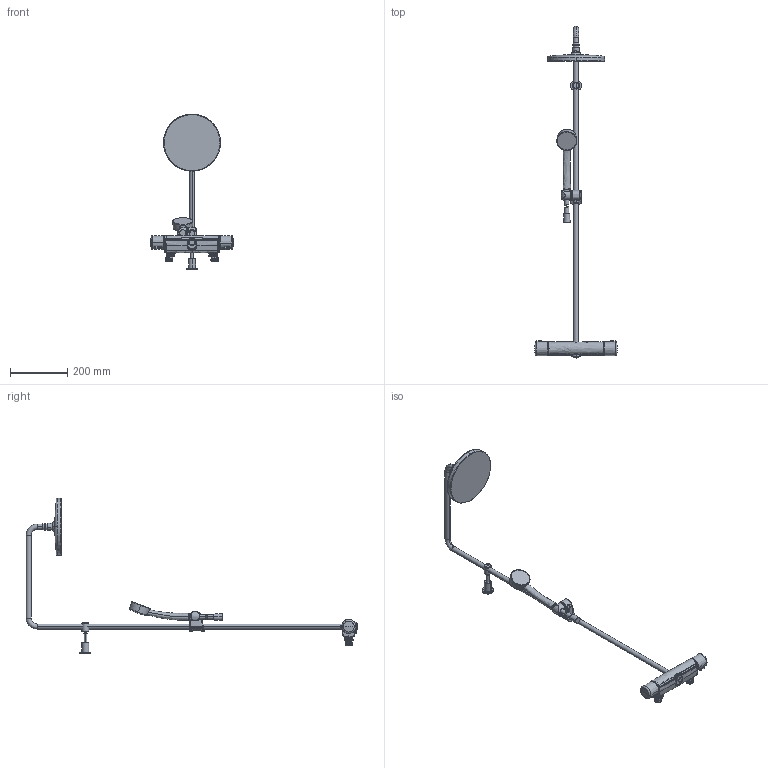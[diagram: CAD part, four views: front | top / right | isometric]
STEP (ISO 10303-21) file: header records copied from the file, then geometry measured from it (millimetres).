
FILE_DESCRIPTION (( 'STEP AP203' ), '1' );
FILE_NAME ('7408(2020).STEP', '2019-09-11T10:07:25', ( '' ), ( '' ), 'SwSTEP 2.0', 'SolidWorks 2016', '' );
FILE_SCHEMA (( 'CONFIG_CONTROL_DESIGN' ));
Products named in the file (1): 7408(2020)
Bounding box: 289.92 x 1162.4 x 545.7 mm (x, y, z)
Volume: 1741825.9 mm3; surface area: 348301.7 mm2
Topology: 23 solids, 23 shells, 847 faces, 1973 edges, 1171 vertices
Faces by surface type: bspline 313, cylinder 209, plane 117, torus 85, cone 83, sphere 40
Entity records: 60449 total; most frequent: CARTESIAN_POINT 43838, ORIENTED_EDGE 3910, DIRECTION 2831, EDGE_CURVE 1955, AXIS2_PLACEMENT_3D 1237, VERTEX_POINT 1169, EDGE_LOOP 868, ADVANCED_FACE 847
